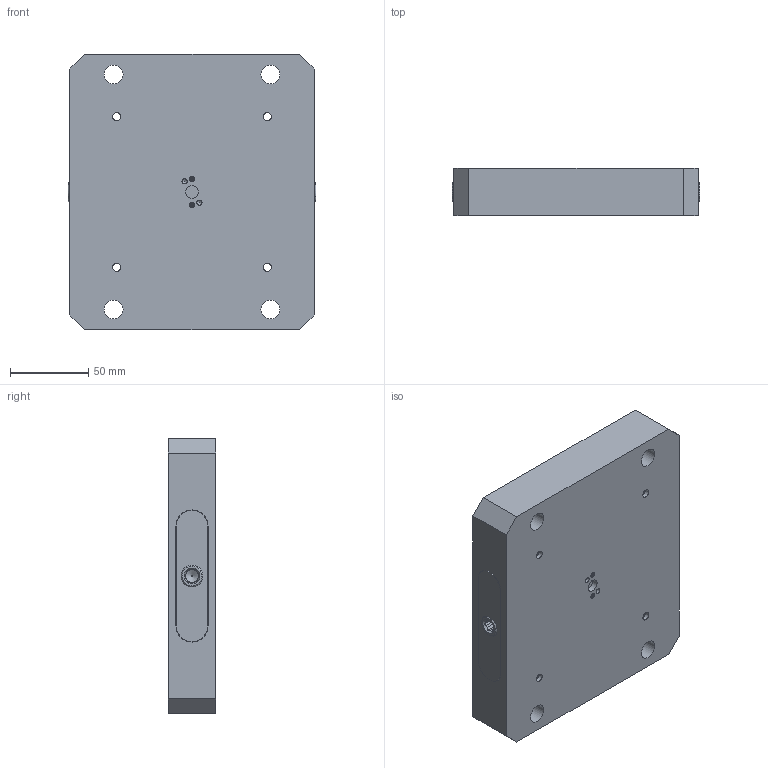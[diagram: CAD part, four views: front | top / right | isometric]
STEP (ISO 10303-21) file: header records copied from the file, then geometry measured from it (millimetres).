
FILE_DESCRIPTION (( 'STEP AP214' ), '1' );
FILE_NAME ('RL96S-67M_WEBSITE.STEP', '2025-08-11T11:36:05', ( '' ), ( '' ), 'SwSTEP 2.0', 'SolidWorks 2025', '' );
FILE_SCHEMA (( 'AUTOMOTIVE_DESIGN' ));
Length unit declared in the file: inch
Products named in the file (10): 9750K730_PLASTIC ROUND PLUG_WEBSITE_9750K73; D_RL96-2R_WEBSITE; RL96S-67M_WEBSITE; D_SB54_WEBSITE_FINISHED PART; D_RL96-2L_WEBSITE; 9452K183-Base-O-Ring_WEBSITE; D_RL96-167MS_WEBSITE; 9452K121-Truck-O-Ring_WEBSITE; D_HW27X20.DB_WEBSITE; D_RL96-3_WEBSITE
Assembly tree (16 placements, depth 2):
  9750K730_PLASTIC ROUND PLUG_WEBSITE_9750K73
  RL96S-67M_WEBSITE
    D_RL96-167MS_WEBSITE
    D_SB54_WEBSITE_FINISHED PART  x2
    D_HW27X20.DB_WEBSITE  x4
    D_RL96-3_WEBSITE
    D_RL96-2R_WEBSITE
    D_RL96-2L_WEBSITE
    9452K183-Base-O-Ring_WEBSITE  x4
    9452K121-Truck-O-Ring_WEBSITE  x2
Bounding box: 158 x 30 x 176 mm (x, y, z)
Volume: 726104.1 mm3; surface area: 140160.7 mm2
Topology: 18 solids, 18 shells, 292 faces, 654 edges, 410 vertices
Faces by surface type: plane 169, cylinder 91, cone 20, torus 10, bspline 2
Full cylindrical faces by diameter (mm): 0.127 x2, 2.5 x2, 3.3 x4, 4 x2, 4.7 x2, 5 x2, 5.182 x6, 8.026 x1, 8.204 x2, 9 x2, 9.525 x2, 10.795 x1, 12.025 x4, 12.192 x4, 12.573 x4, 14 x2, 15.748 x2, 19.05 x2, 19.101 x4, 19.25 x4, 19.99 x1, 20 x4, 20.035 x4, 26.977 x4, 26.993 x4, 27.051 x4
Entity records: 8910 total; most frequent: CARTESIAN_POINT 3201, DIRECTION 1134, ORIENTED_EDGE 912, AXIS2_PLACEMENT_3D 461, EDGE_CURVE 456, EDGE_LOOP 386, VERTEX_POINT 330, FACE_OUTER_BOUND 309
